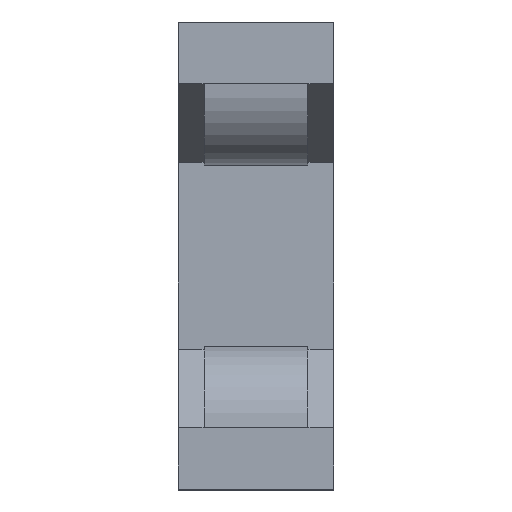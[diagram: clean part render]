
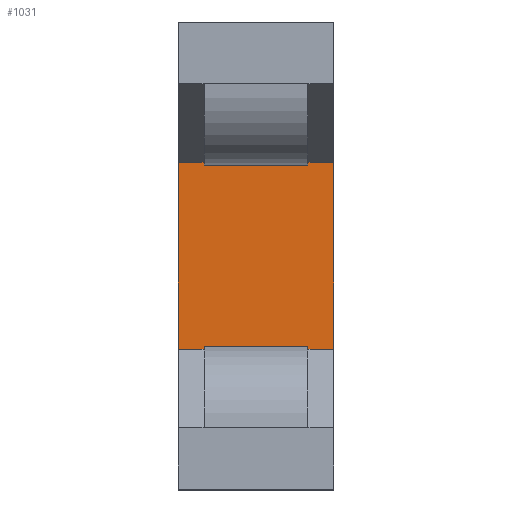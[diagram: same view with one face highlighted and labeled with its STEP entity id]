
A CAD part, top view. The second image highlights one B-rep face of the part: STEP entity #1031.
In plain terms, the highlighted planar face has unit normal (0, 0, 1) as drawn and (-1, 0, 0) by its records, which use the part's own axes.
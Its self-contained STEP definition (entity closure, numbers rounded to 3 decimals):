
#108 = LINE ( 'NONE', #111, #110 ) ;
#110 = VECTOR ( 'NONE', #112, 1000. ) ;
#111 = CARTESIAN_POINT ( 'NONE',  ( 4., 2., -3.6 ) ) ;
#112 = DIRECTION ( 'NONE',  ( 0., -1., 0. ) ) ;
#316 = DIRECTION ( 'NONE',  ( 0., 1., 0. ) ) ;
#317 = VECTOR ( 'NONE', #316, 1000. ) ;
#318 = CARTESIAN_POINT ( 'NONE',  ( 4., -3., -3.6 ) ) ;
#319 = LINE ( 'NONE', #318, #317 ) ;
#320 = DIRECTION ( 'NONE',  ( 0., 0., -1. ) ) ;
#321 = DIRECTION ( 'NONE',  ( 1., 0., 0. ) ) ;
#322 = CARTESIAN_POINT ( 'NONE',  ( 4., -3., -3.6 ) ) ;
#323 = AXIS2_PLACEMENT_3D ( 'NONE', #322, #321, #320 ) ;
#324 = PLANE ( 'NONE',  #323 ) ;
#325 = FACE_OUTER_BOUND ( 'NONE', #1030, .T. ) ;
#326 = CARTESIAN_POINT ( 'NONE',  ( 4., -2., 3.6 ) ) ;
#327 = DIRECTION ( 'NONE',  ( 0., 1., 0. ) ) ;
#328 = VECTOR ( 'NONE', #327, 1000. ) ;
#329 = CARTESIAN_POINT ( 'NONE',  ( 4., -3., 3.6 ) ) ;
#330 = LINE ( 'NONE', #329, #328 ) ;
#351 = LINE ( 'NONE', #408, #407 ) ;
#362 = CARTESIAN_POINT ( 'NONE',  ( 4., -2., -3.6 ) ) ;
#363 = DIRECTION ( 'NONE',  ( 0., 1., 0. ) ) ;
#364 = VECTOR ( 'NONE', #363, 1000. ) ;
#365 = CARTESIAN_POINT ( 'NONE',  ( 4., -3., -3.6 ) ) ;
#366 = LINE ( 'NONE', #365, #364 ) ;
#367 = CARTESIAN_POINT ( 'NONE',  ( 4., 2., -3.6 ) ) ;
#405 = CARTESIAN_POINT ( 'NONE',  ( 4., 2., 3.6 ) ) ;
#406 = DIRECTION ( 'NONE',  ( 0., 1., 0. ) ) ;
#407 = VECTOR ( 'NONE', #406, 1000. ) ;
#408 = CARTESIAN_POINT ( 'NONE',  ( 4., -3., 3.6 ) ) ;
#420 = DIRECTION ( 'NONE',  ( 0., -1., 0. ) ) ;
#421 = VECTOR ( 'NONE', #420, 1000. ) ;
#422 = CARTESIAN_POINT ( 'NONE',  ( 4., 2., 3.6 ) ) ;
#423 = LINE ( 'NONE', #422, #421 ) ;
#696 = VERTEX_POINT ( 'NONE', #1419 ) ;
#812 = VERTEX_POINT ( 'NONE', #1750 ) ;
#816 = EDGE_CURVE ( 'NONE', #812, #818, #1740, .T. ) ;
#818 = VERTEX_POINT ( 'NONE', #1736 ) ;
#842 = VERTEX_POINT ( 'NONE', #1774 ) ;
#844 = EDGE_CURVE ( 'NONE', #696, #842, #1773, .T. ) ;
#903 = EDGE_CURVE ( 'NONE', #1041, #1047, #108, .T. ) ;
#905 = ORIENTED_EDGE ( 'NONE', *, *, #1043, .F. ) ;
#906 = ORIENTED_EDGE ( 'NONE', *, *, #903, .T. ) ;
#1026 = ORIENTED_EDGE ( 'NONE', *, *, #816, .F. ) ;
#1027 = ORIENTED_EDGE ( 'NONE', *, *, #1028, .T. ) ;
#1028 = EDGE_CURVE ( 'NONE', #812, #1029, #330, .T. ) ;
#1029 = VERTEX_POINT ( 'NONE', #326 ) ;
#1030 = EDGE_LOOP ( 'NONE', ( #1032, #1026, #1027, #1097, #1098, #1061, #905, #906 ) ) ;
#1031 = ADVANCED_FACE ( 'NONE', ( #325 ), #324, .F. ) ;
#1032 = ORIENTED_EDGE ( 'NONE', *, *, #1033, .F. ) ;
#1033 = EDGE_CURVE ( 'NONE', #818, #1047, #319, .T. ) ;
#1041 = VERTEX_POINT ( 'NONE', #367 ) ;
#1043 = EDGE_CURVE ( 'NONE', #1041, #842, #366, .T. ) ;
#1047 = VERTEX_POINT ( 'NONE', #362 ) ;
#1061 = ORIENTED_EDGE ( 'NONE', *, *, #844, .T. ) ;
#1062 = EDGE_CURVE ( 'NONE', #1063, #696, #351, .T. ) ;
#1063 = VERTEX_POINT ( 'NONE', #405 ) ;
#1097 = ORIENTED_EDGE ( 'NONE', *, *, #1099, .F. ) ;
#1098 = ORIENTED_EDGE ( 'NONE', *, *, #1062, .T. ) ;
#1099 = EDGE_CURVE ( 'NONE', #1063, #1029, #423, .T. ) ;
#1419 = CARTESIAN_POINT ( 'NONE',  ( 4., 3., 3.6 ) ) ;
#1736 = CARTESIAN_POINT ( 'NONE',  ( 4., -3., -3.6 ) ) ;
#1737 = DIRECTION ( 'NONE',  ( 0., 0., -1. ) ) ;
#1738 = VECTOR ( 'NONE', #1737, 1000. ) ;
#1739 = CARTESIAN_POINT ( 'NONE',  ( 4., -3., -3.6 ) ) ;
#1740 = LINE ( 'NONE', #1739, #1738 ) ;
#1750 = CARTESIAN_POINT ( 'NONE',  ( 4., -3., 3.6 ) ) ;
#1770 = DIRECTION ( 'NONE',  ( 0., 0., -1. ) ) ;
#1771 = VECTOR ( 'NONE', #1770, 1000. ) ;
#1772 = CARTESIAN_POINT ( 'NONE',  ( 4., 3., -3.6 ) ) ;
#1773 = LINE ( 'NONE', #1772, #1771 ) ;
#1774 = CARTESIAN_POINT ( 'NONE',  ( 4., 3., -3.6 ) ) ;
